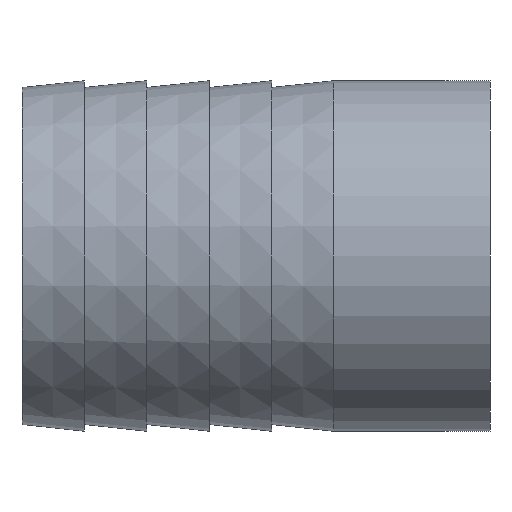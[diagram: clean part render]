
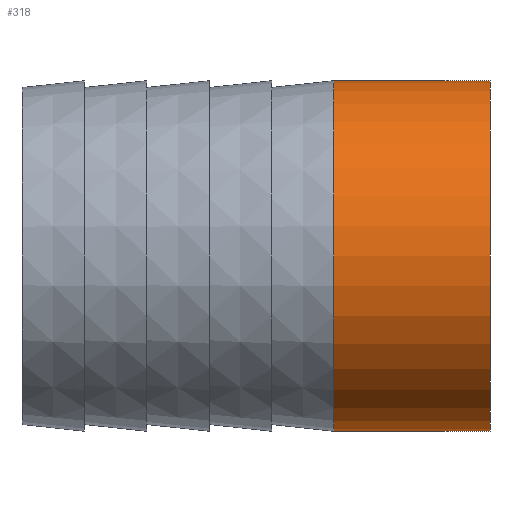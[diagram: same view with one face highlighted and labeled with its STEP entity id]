
A CAD part, front view. The second image highlights one B-rep face of the part: STEP entity #318.
In plain terms, the highlighted cylindrical face has radius 16.85 mm (diameter 33.7 mm), a partial arc.
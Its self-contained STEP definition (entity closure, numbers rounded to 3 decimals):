
#72 = VERTEX_POINT ( 'NONE', #250 ) ;
#77 = CARTESIAN_POINT ( 'NONE',  ( 15., 0., -16.85 ) ) ;
#99 = EDGE_CURVE ( 'NONE', #72, #418, #533, .T. ) ;
#120 = LINE ( 'NONE', #498, #404 ) ;
#189 = DIRECTION ( 'NONE',  ( -1., 0., 0. ) ) ;
#193 = DIRECTION ( 'NONE',  ( 0., 0., 1. ) ) ;
#232 = ORIENTED_EDGE ( 'NONE', *, *, #523, .F. ) ;
#244 = DIRECTION ( 'NONE',  ( 0., 0., 1. ) ) ;
#250 = CARTESIAN_POINT ( 'NONE',  ( 15., 0., 16.85 ) ) ;
#255 = EDGE_LOOP ( 'NONE', ( #232, #420, #572, #287 ) ) ;
#278 = DIRECTION ( 'NONE',  ( -1., 0., 0. ) ) ;
#287 = ORIENTED_EDGE ( 'NONE', *, *, #527, .F. ) ;
#307 = CARTESIAN_POINT ( 'NONE',  ( -136.599, 0., 0. ) ) ;
#318 = ADVANCED_FACE ( 'NONE', ( #465 ), #550, .T. ) ;
#322 = CARTESIAN_POINT ( 'NONE',  ( 0., 0., 0. ) ) ;
#326 = EDGE_CURVE ( 'NONE', #489, #72, #609, .T. ) ;
#334 = VECTOR ( 'NONE', #526, 1000. ) ;
#370 = DIRECTION ( 'NONE',  ( -1., 0., 0. ) ) ;
#372 = AXIS2_PLACEMENT_3D ( 'NONE', #568, #278, #244 ) ;
#404 = VECTOR ( 'NONE', #370, 1000. ) ;
#412 = DIRECTION ( 'NONE',  ( 0., 0., 1. ) ) ;
#418 = VERTEX_POINT ( 'NONE', #458 ) ;
#420 = ORIENTED_EDGE ( 'NONE', *, *, #326, .T. ) ;
#442 = VERTEX_POINT ( 'NONE', #583 ) ;
#458 = CARTESIAN_POINT ( 'NONE',  ( 0., 0., 16.85 ) ) ;
#465 = FACE_OUTER_BOUND ( 'NONE', #255, .T. ) ;
#489 = VERTEX_POINT ( 'NONE', #77 ) ;
#498 = CARTESIAN_POINT ( 'NONE',  ( -136.599, 0., -16.85 ) ) ;
#513 = DIRECTION ( 'NONE',  ( -1., 0., 0. ) ) ;
#517 = AXIS2_PLACEMENT_3D ( 'NONE', #322, #513, #412 ) ;
#523 = EDGE_CURVE ( 'NONE', #489, #442, #120, .T. ) ;
#526 = DIRECTION ( 'NONE',  ( -1., 0., 0. ) ) ;
#527 = EDGE_CURVE ( 'NONE', #442, #418, #615, .T. ) ;
#533 = LINE ( 'NONE', #570, #334 ) ;
#548 = AXIS2_PLACEMENT_3D ( 'NONE', #307, #189, #193 ) ;
#550 = CYLINDRICAL_SURFACE ( 'NONE', #548, 16.85 ) ;
#568 = CARTESIAN_POINT ( 'NONE',  ( 15., 0., 0. ) ) ;
#570 = CARTESIAN_POINT ( 'NONE',  ( -136.599, 0., 16.85 ) ) ;
#572 = ORIENTED_EDGE ( 'NONE', *, *, #99, .T. ) ;
#583 = CARTESIAN_POINT ( 'NONE',  ( 0., 0., -16.85 ) ) ;
#609 = CIRCLE ( 'NONE', #372, 16.85 ) ;
#615 = CIRCLE ( 'NONE', #517, 16.85 ) ;
